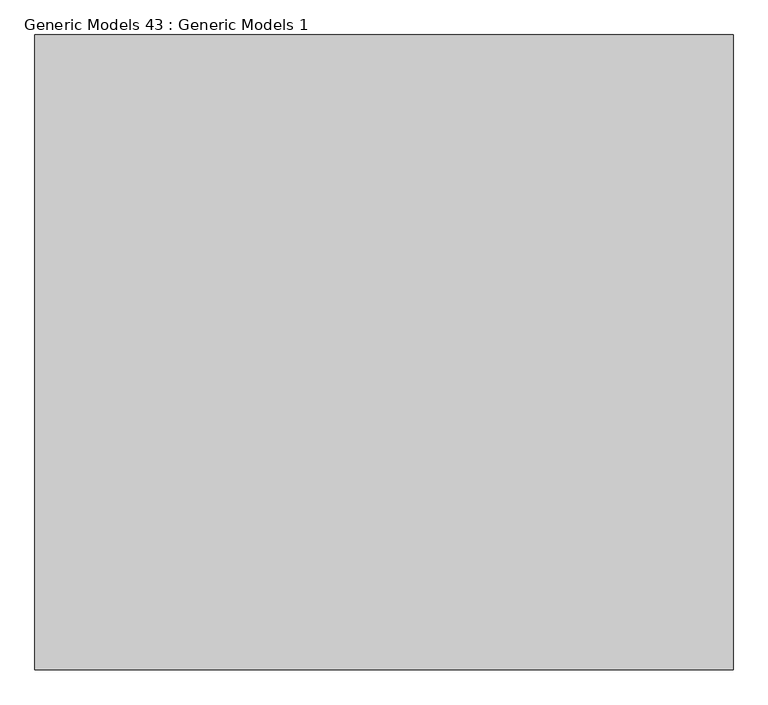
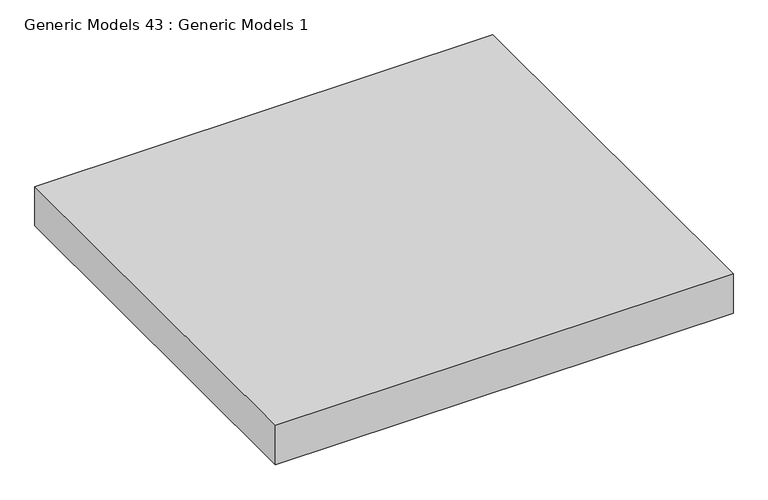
"""IFC4 building model written with IfcOpenShell, lengths in millimetres: proxy geometry, Generic Models 43 : Generic Models 1."""

from ifc_helpers import new_model, si_unit, origin, origin_with_axes, place, context, project, spatial, polyline, outline, extrude, source, transform, mapped, element, save


def generic_models_43_generic_models_1_5dd9acc0(model_context):
    return source(origin(), model_context, "Body", "SweptSolid", [
        extrude(outline(polyline([(9095.1731655, -3424.1855869), (9095.1731655, -2424.1855869), (10195.1731655, -2424.1855869), (10195.1731655, -3424.1855869), (9095.1731655, -3424.1855869)])), origin_with_axes(), (0.0, 0.0, 1.0), 100.0),
    ])


if __name__ == "__main__":
    model = new_model("IFC4")
    model_context = context("Model", 3, world=origin())
    ifc_project = project(units=[si_unit("LENGTHUNIT", "METRE", prefix="MILLI")], contexts=[model_context])
    site = spatial("IfcSite", under=ifc_project)
    building = spatial("IfcBuilding", under=site)
    placement = place(None, origin())
    generic_models_43_generic_models_1_shape = generic_models_43_generic_models_1_5dd9acc0(model_context)
    element("IfcBuildingElementProxy", 1, Name="Generic Models 43 : Generic Models 1", ObjectType="Generic Models 43 : Generic Models 1", at=placement, inside=building, context=model_context, shape_type="MappedRepresentation", body=[
        mapped(generic_models_43_generic_models_1_shape, transform((0.0, 0.0, 0.0), x_axis=(1.0, 0.0, 0.0), y_axis=(0.0, 1.0, 0.0), z_axis=(0.0, 0.0, 1.0))),
    ])
    save(model, "model.ifc")
